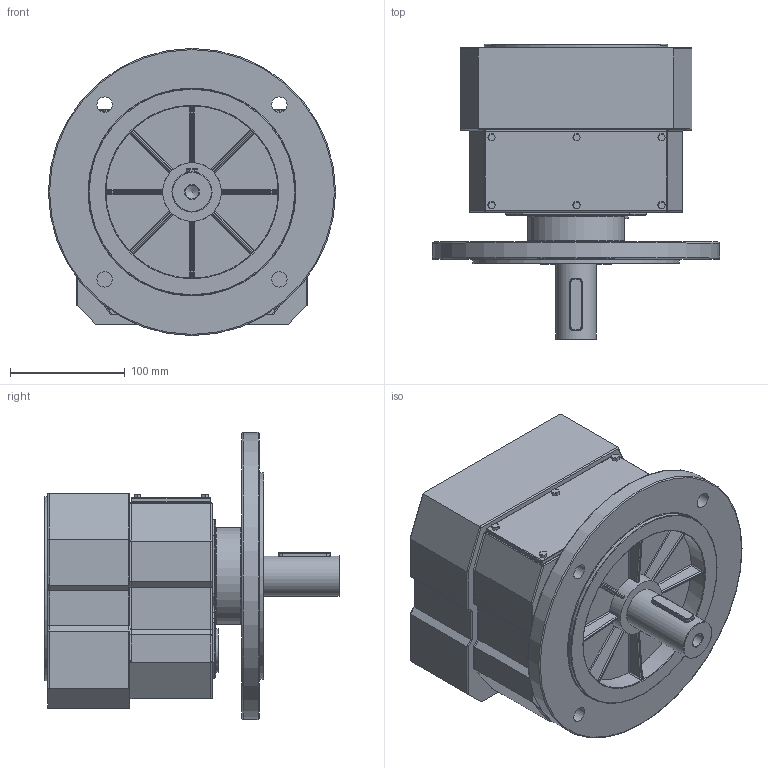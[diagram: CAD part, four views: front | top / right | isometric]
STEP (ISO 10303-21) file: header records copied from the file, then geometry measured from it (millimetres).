
FILE_DESCRIPTION((''),'2;1');
FILE_NAME('D:\PAWEŁ\ZLECENIA\2011 DualSystem\Przekładnie DR\DR50\STEP\DRF50_fi 250.stp','2012-06-11T12:02:58',('admin'),(''),'Autodesk Inventor 2009','Autodesk Inventor 2009','');
FILE_SCHEMA(('AUTOMOTIVE_DESIGN { 1 0 10303 214 1 1 1 1 }'));
Length unit declared in the file: millimetre
Products named in the file (1): DRF50_fi 250
Bounding box: 250 x 257 x 250 mm (x, y, z)
Volume: 5656804.9 mm3; surface area: 336041.4 mm2
Topology: 2 solids, 2 shells, 500 faces, 1197 edges, 676 vertices
Faces by surface type: cylinder 230, plane 164, sphere 44, bspline 43, torus 19
Full cylindrical faces by diameter (mm): 25.333 x1, 34 x1, 35 x1, 38 x1, 51 x1, 84 x1, 120 x1, 150 x1, 160 x1, 180 x1, 250 x1
Entity records: 16668 total; most frequent: CARTESIAN_POINT 5150, DIRECTION 2472, ORIENTED_EDGE 2248, EDGE_CURVE 1124, AXIS2_PLACEMENT_3D 932, VERTEX_POINT 669, VECTOR 608, LINE 608
